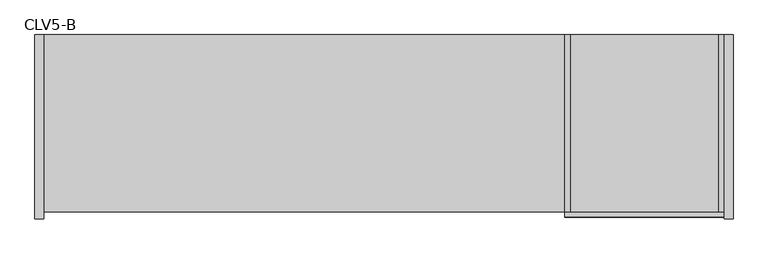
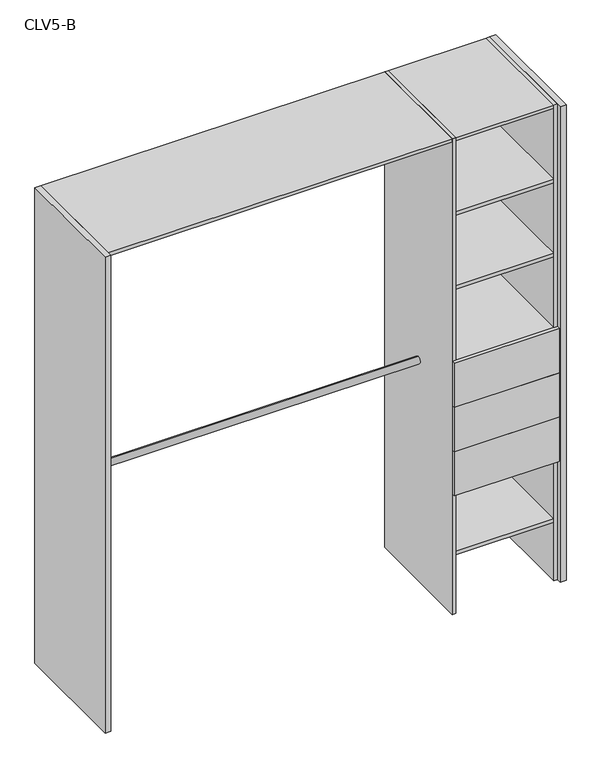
"""IFC4 building model written with IfcOpenShell, lengths in millimetres: furniture geometry, Closet 1estantes-1tubos_2 laterales : CLV5-B."""

import ifcopenshell
import ifcopenshell.guid

model = None  # the IFC model being written
_history = None  # IfcOwnerHistory: only IFC2X3 demands one
_inside = {}  # id of a spatial element -> (the spatial element, [elements in it])
_under = {}  # id of a project, library or spatial element -> (it, [spatial elements below it])
_declared = {}  # id of a project -> (the project, [libraries it declares])
_typed = {}  # id of a type object -> (the type object, [elements of that type])
_made_of = {}  # id of a material, layer set ... -> (it, [elements and type objects made of it])


def new_model(schema):
    """Start an empty IFC model of exactly this schema.

    Asked for "IFC4X3", IfcOpenShell would pick the latest addendum, in which some entities
    have other attributes; the version numbers below select the first issue.
    IFC2X3 requires an IfcOwnerHistory on every rooted entity: one is made here for all.
    """
    global model, _history
    if schema == "IFC4X3":
        model = ifcopenshell.file(schema_version=(4, 3, 0, 0))
    else:
        model = ifcopenshell.file(schema=schema)
    _inside.clear()
    _under.clear()
    _declared.clear()
    _typed.clear()
    _made_of.clear()
    _history = None
    if model.schema == "IFC2X3":
        org = make("IfcOrganization", Name="unknown")
        user = make(
            "IfcPersonAndOrganization",
            ThePerson=make("IfcPerson", FamilyName="unknown"),
            TheOrganization=org,
        )
        app = make(
            "IfcApplication",
            ApplicationDeveloper=org,
            Version="unknown",
            ApplicationFullName="unknown",
            ApplicationIdentifier="unknown",
        )
        _history = make(
            "IfcOwnerHistory",
            OwningUser=user,
            OwningApplication=app,
            ChangeAction="ADDED",
            CreationDate=0,
        )
    return model


def make(cls, **values):
    """One entity of the class cls with the attributes given. An attribute that is None is left unset."""
    return model.create_entity(
        cls, **{name: value for name, value in values.items() if value is not None}
    )


def rooted(cls, **values):
    """An entity with a GlobalId (a new one), such as an element, a storey or a relation."""
    return make(cls, GlobalId=ifcopenshell.guid.new(), OwnerHistory=_history, **values)


def si_unit(unit_type, name, prefix=None):
    """IfcSIUnit, for example si_unit("LENGTHUNIT", "METRE", prefix="MILLI")."""
    return make("IfcSIUnit", UnitType=unit_type, Prefix=prefix, Name=name)


def assignment(units):
    """IfcUnitAssignment: the units of a project."""
    return None if units is None else make("IfcUnitAssignment", Units=units)


def point(xyz):
    """IfcCartesianPoint."""
    return None if xyz is None else make("IfcCartesianPoint", Coordinates=xyz)


def direction(xyz):
    """IfcDirection."""
    return None if xyz is None else make("IfcDirection", DirectionRatios=xyz)


def frame(location, z_axis=None, x_axis=None):
    """IfcAxis2Placement3D, a coordinate frame: its origin and axes. An axis left out is left unset."""
    return make(
        "IfcAxis2Placement3D",
        Location=point(location),
        Axis=direction(z_axis),
        RefDirection=direction(x_axis),
    )


def frame_2d(location, x_axis=None):
    """IfcAxis2Placement2D, a coordinate frame in the plane: its origin and x axis."""
    return make(
        "IfcAxis2Placement2D", Location=point(location), RefDirection=direction(x_axis)
    )


def origin():
    """The frame at (0, 0, 0) with its axes left unset."""
    return frame((0.0, 0.0, 0.0))


def origin_with_axes():
    """The frame at (0, 0, 0) with the z axis (0, 0, 1) and the x axis (1, 0, 0) written out."""
    return frame((0.0, 0.0, 0.0), z_axis=(0.0, 0.0, 1.0), x_axis=(1.0, 0.0, 0.0))


def place(relative_to, where):
    """IfcLocalPlacement: puts the frame where relative to a parent placement (None: the world)."""
    return make(
        "IfcLocalPlacement", PlacementRelTo=relative_to, RelativePlacement=where
    )


def context(
    kind, dimensions, precision=None, world=None, true_north=None, identifier=None
):
    """IfcGeometricRepresentationContext, for example the 3D "Model" context."""
    return make(
        "IfcGeometricRepresentationContext",
        ContextIdentifier=identifier,
        ContextType=kind,
        CoordinateSpaceDimension=dimensions,
        Precision=precision,
        WorldCoordinateSystem=world,
        TrueNorth=true_north,
    )


def project(units=None, contexts=None):
    """IfcProject with its units and contexts."""
    return rooted(
        "IfcProject",
        Name="project",
        RepresentationContexts=contexts,
        UnitsInContext=assignment(units),
    )


def spatial(cls, under=None, at=None, **own):
    """A site, building, storey or space (cls), placed at a placement, below another one or the project."""
    s = rooted(cls, ObjectPlacement=at, **own)
    if under is not None:
        _under.setdefault(under.id(), (under, []))[1].append(s)
    return s


def polyline(points):
    """IfcPolyline through the points."""
    return make("IfcPolyline", Points=[point(p) for p in points])


def circle_curve(where, radius):
    """IfcCircle in the frame where."""
    return make("IfcCircle", Position=where, Radius=radius)


def trimmed(basis, trim1, trim2, sense, master):
    """IfcTrimmedCurve: the piece of a basis curve between two trims."""
    return make(
        "IfcTrimmedCurve",
        BasisCurve=basis,
        Trim1=trim1,
        Trim2=trim2,
        SenseAgreement=sense,
        MasterRepresentation=master,
    )


def segment(curve, same_sense, transition):
    """IfcCompositeCurveSegment."""
    return make(
        "IfcCompositeCurveSegment",
        Transition=transition,
        SameSense=same_sense,
        ParentCurve=curve,
    )


def composite_curve(segments, self_intersect=None):
    """IfcCompositeCurve: segments joined end to end."""
    return make("IfcCompositeCurve", Segments=segments, SelfIntersect=self_intersect)


def outline(outer, holes=None, kind="AREA"):
    """IfcArbitraryClosedProfileDef: a profile drawn as a closed curve; with holes, ...WithVoids."""
    if holes is None:
        return make("IfcArbitraryClosedProfileDef", ProfileType=kind, OuterCurve=outer)
    return make(
        "IfcArbitraryProfileDefWithVoids",
        ProfileType=kind,
        OuterCurve=outer,
        InnerCurves=holes,
    )


def extrude(swept, where, along, depth):
    """IfcExtrudedAreaSolid: the profile swept, set in the frame where, extruded along a direction by depth."""
    return make(
        "IfcExtrudedAreaSolid",
        SweptArea=swept,
        Position=where,
        ExtrudedDirection=direction(along),
        Depth=depth,
    )


def shape(context_of_items, identifier, shape_type, items):
    """IfcShapeRepresentation: the items that make up one representation, for example the "Body"."""
    return make(
        "IfcShapeRepresentation",
        ContextOfItems=context_of_items,
        RepresentationIdentifier=identifier,
        RepresentationType=shape_type,
        Items=items,
    )


def source(mapping_origin, context_of_items, identifier, shape_type, items):
    """IfcRepresentationMap: a shape defined once, which mapped items show again and again."""
    return make(
        "IfcRepresentationMap",
        MappingOrigin=mapping_origin,
        MappedRepresentation=shape(context_of_items, identifier, shape_type, items),
    )


def transform(
    local_origin,
    x_axis=None,
    y_axis=None,
    z_axis=None,
    scale=None,
    scale2=None,
    scale3=None,
    uniform=True,
):
    """IfcCartesianTransformationOperator3D, or its non-uniform kind. x_axis, y_axis, z_axis: its Axis1, 2, 3."""
    if uniform:
        return make(
            "IfcCartesianTransformationOperator3D",
            Axis1=direction(x_axis),
            Axis2=direction(y_axis),
            LocalOrigin=point(local_origin),
            Scale=scale,
            Axis3=direction(z_axis),
        )
    return make(
        "IfcCartesianTransformationOperator3DnonUniform",
        Axis1=direction(x_axis),
        Axis2=direction(y_axis),
        LocalOrigin=point(local_origin),
        Scale=scale,
        Axis3=direction(z_axis),
        Scale2=scale2,
        Scale3=scale3,
    )


def mapped(mapping_source, mapping_target):
    """IfcMappedItem: shows the shape of a source again, moved by a transform."""
    return make(
        "IfcMappedItem", MappingSource=mapping_source, MappingTarget=mapping_target
    )


def made_of(thing, what):
    """Note that an element or type object is made of a material, layer set ...; save() writes the relation."""
    if what is not None:
        _made_of.setdefault(what.id(), (what, []))[1].append(thing)
    return thing


def element(
    cls,
    number,
    at=None,
    inside=None,
    cuts=None,
    type_object=None,
    material=None,
    context=None,
    identifier="Body",
    shape_type=None,
    held_by="IfcProductDefinitionShape",
    body=None,
    shapes=None,
    **own,
):
    """One element of the class cls, such as IfcWall. Its Tag is "e" and its number.

    at: its placement. inside: the storey or other place that contains it. cuts: it is an
    opening in that element (IfcRelVoidsElement). A single representation is given by context,
    identifier, shape_type and body (its items); several are given by shapes. held_by: the class
    of the entity that holds the representations. save() writes the other relations.
    """
    e = rooted(cls, Tag="e%d" % number, ObjectPlacement=at, **own)
    if body is not None:
        shapes = [shape(context, identifier, shape_type, body)]
    if shapes is not None:
        e.Representation = make(held_by, Representations=shapes)
    if inside is not None:
        _inside.setdefault(inside.id(), (inside, []))[1].append(e)
    if cuts is not None:
        rooted(
            "IfcRelVoidsElement", RelatingBuildingElement=cuts, RelatedOpeningElement=e
        )
    if type_object is not None:
        _typed.setdefault(type_object.id(), (type_object, []))[1].append(e)
    return made_of(e, material)


def aggregate(whole, parts):
    """IfcRelAggregates: a whole, such as a stair, and the parts it consists of."""
    return rooted("IfcRelAggregates", RelatingObject=whole, RelatedObjects=parts)


def save(model, path):
    """Write the relations noted so far, then the file.

    IfcRelAggregates (storeys below a building ...), IfcRelContainedInSpatialStructure (elements
    in a storey), IfcRelDefinesByType, IfcRelAssociatesMaterial and IfcRelDeclares: one each for
    every whole, place, type object, material and project.
    """
    for whole, parts in _under.values():
        aggregate(whole, parts)
    for where, things in _inside.values():
        rooted(
            "IfcRelContainedInSpatialStructure",
            RelatedElements=things,
            RelatingStructure=where,
        )
    for kind, things in _typed.values():
        rooted("IfcRelDefinesByType", RelatedObjects=things, RelatingType=kind)
    for what, things in _made_of.values():
        rooted("IfcRelAssociatesMaterial", RelatedObjects=things, RelatingMaterial=what)
    for by, libraries in _declared.values():
        rooted("IfcRelDeclares", RelatingContext=by, RelatedDefinitions=libraries)
    model.write(path)


def clv5_b_cabb3673(model_context):
    return source(origin(), model_context, "Body", "SweptSolid", [
        extrude(outline(polyline([(-1694.9792633, 80.0), (-1719.9792633, 80.0), (-1719.9792633, 600.0), (-1694.9792633, 600.0), (-1694.9792633, 80.0)])), origin_with_axes(), (0.0, 0.0, 1.0), 2150.0),
        extrude(outline(polyline([(250.0, 80.0), (225.0, 80.0), (225.0, 600.0), (250.0, 600.0), (250.0, 80.0)])), origin_with_axes(), (0.0, 0.0, 1.0), 2150.0),
        extrude(outline(polyline([(225.0, 100.0), (210.0, 100.0), (210.0, 600.0), (225.0, 600.0), (225.0, 100.0)])), origin_with_axes(), (0.0, 0.0, 1.0), 2150.0),
        extrude(outline(polyline([(-210.0, 100.0), (-225.0, 100.0), (-225.0, 600.0), (-210.0, 600.0), (-210.0, 100.0)])), origin_with_axes(), (0.0, 0.0, 1.0), 2150.0),
        extrude(outline(polyline([(225.0, 100.0), (225.0, 85.0), (-225.0, 85.0), (-225.0, 100.0), (225.0, 100.0)])), frame((0.0, 0.0, 945.0), z_axis=(0.0, 0.0, 1.0), x_axis=(1.0, 0.0, 0.0)), (0.0, 0.0, 1.0), 200.0),
        extrude(outline(polyline([(225.0, 100.0), (225.0, 85.0), (-225.0, 85.0), (-225.0, 100.0), (225.0, 100.0)])), frame((0.0, 0.0, 745.0), z_axis=(0.0, 0.0, 1.0), x_axis=(1.0, 0.0, 0.0)), (0.0, 0.0, 1.0), 200.0),
        extrude(outline(polyline([(225.0, 100.0), (225.0, 85.0), (-225.0, 85.0), (-225.0, 100.0), (225.0, 100.0)])), frame((0.0, 0.0, 545.0), z_axis=(0.0, 0.0, 1.0), x_axis=(1.0, 0.0, 0.0)), (0.0, 0.0, 1.0), 200.0),
        extrude(outline(polyline([(210.0, 100.0), (-210.0, 100.0), (-210.0, 600.0), (210.0, 600.0), (210.0, 100.0)])), frame((0.0, 0.0, 1130.0), z_axis=(0.0, 0.0, 1.0), x_axis=(1.0, 0.0, 0.0)), (0.0, 0.0, 1.0), 15.0),
        extrude(outline(composite_curve([segment(trimmed(circle_curve(frame_2d((350.0, 1000.0)), 15.0), [point((350.0, 1015.0))], [point((350.0, 985.0))], False, "CARTESIAN"), True, "CONTINUOUS"), segment(trimmed(circle_curve(frame_2d((350.0, 1000.0)), 15.0), [point((350.0, 985.0))], [point((350.0, 1015.0))], False, "CARTESIAN"), True, "CONTINUOUS")], self_intersect=False)), frame((-1694.9792633, 0.0, 0.0), z_axis=(1.0, 0.0, 0.0), x_axis=(0.0, 1.0, 0.0)), (0.0, 0.0, 1.0), 1469.9792633),
        extrude(outline(composite_curve([segment(trimmed(circle_curve(frame_2d((350.0, 2000.0)), 15.0), [point((350.0, 2015.0))], [point((350.0, 1985.0))], False, "CARTESIAN"), True, "CONTINUOUS"), segment(trimmed(circle_curve(frame_2d((350.0, 2000.0)), 15.0), [point((350.0, 1985.0))], [point((350.0, 2015.0))], False, "CARTESIAN"), True, "CONTINUOUS")], self_intersect=False)), frame((-1694.9792633, 0.0, 0.0), z_axis=(1.0, 0.0, 0.0), x_axis=(0.0, 1.0, 0.0)), (0.0, 0.0, 1.0), 1469.9792633),
        extrude(outline(polyline([(210.0, 100.0), (-210.0, 100.0), (-210.0, 600.0), (210.0, 600.0), (210.0, 100.0)])), frame((0.0, 0.0, 265.0), z_axis=(0.0, 0.0, 1.0), x_axis=(1.0, 0.0, 0.0)), (0.0, 0.0, 1.0), 15.0),
        extrude(outline(polyline([(210.0, 100.0), (-210.0, 100.0), (-210.0, 600.0), (210.0, 600.0), (210.0, 100.0)])), frame((0.0, 0.0, 545.0), z_axis=(0.0, 0.0, 1.0), x_axis=(1.0, 0.0, 0.0)), (0.0, 0.0, 1.0), 15.0),
        extrude(outline(polyline([(210.0, 100.0), (-210.0, 100.0), (-210.0, 600.0), (210.0, 600.0), (210.0, 100.0)])), frame((0.0, 0.0, 1465.0), z_axis=(0.0, 0.0, 1.0), x_axis=(1.0, 0.0, 0.0)), (0.0, 0.0, 1.0), 15.0),
        extrude(outline(polyline([(210.0, 100.0), (-210.0, 100.0), (-210.0, 600.0), (210.0, 600.0), (210.0, 100.0)])), frame((0.0, 0.0, 1800.0), z_axis=(0.0, 0.0, 1.0), x_axis=(1.0, 0.0, 0.0)), (0.0, 0.0, 1.0), 15.0),
        extrude(outline(polyline([(-210.0, 100.0), (-1694.9792633, 100.0), (-1694.9792633, 600.0), (-210.0, 600.0), (-210.0, 100.0)])), frame((0.0, 0.0, 2135.0), z_axis=(0.0, 0.0, 1.0), x_axis=(1.0, 0.0, 0.0)), (0.0, 0.0, 1.0), 15.0),
        extrude(outline(polyline([(210.0, 100.0), (-210.0, 100.0), (-210.0, 600.0), (210.0, 600.0), (210.0, 100.0)])), frame((0.0, 0.0, 2135.0), z_axis=(0.0, 0.0, 1.0), x_axis=(1.0, 0.0, 0.0)), (0.0, 0.0, 1.0), 15.0),
    ])


if __name__ == "__main__":
    model = new_model("IFC4")
    model_context = context("Model", 3, world=origin())
    ifc_project = project(units=[si_unit("LENGTHUNIT", "METRE", prefix="MILLI")], contexts=[model_context])
    site = spatial("IfcSite", under=ifc_project)
    building = spatial("IfcBuilding", under=site)
    placement = place(None, origin())
    clv5_b_shape = clv5_b_cabb3673(model_context)
    element("IfcFurniture", 1, ObjectType="Closet 1estantes-1tubos_2 laterales : CLV5-B", at=placement, inside=building, context=model_context, shape_type="MappedRepresentation", body=[
        mapped(clv5_b_shape, transform((0.0, 0.0, 0.0), x_axis=(1.0, 0.0, 0.0), y_axis=(0.0, 1.0, 0.0), z_axis=(0.0, 0.0, 1.0))),
    ])
    save(model, "model.ifc")
